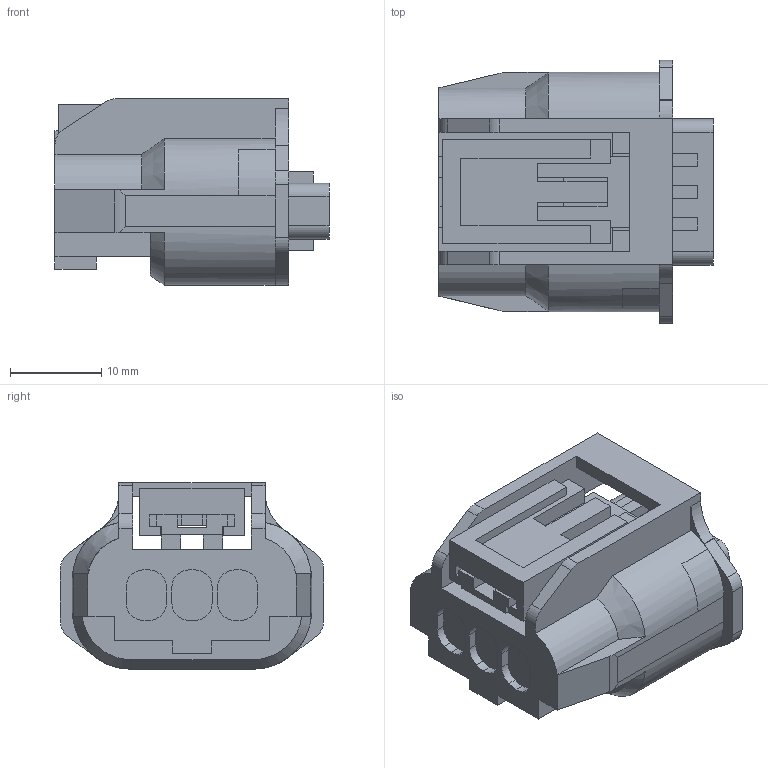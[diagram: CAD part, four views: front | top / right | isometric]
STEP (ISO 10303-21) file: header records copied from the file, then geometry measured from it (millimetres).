
FILE_DESCRIPTION(('CATIA V5 STEP Exchange','CAx-IF Rec.Pracs.--- Model Styling and Organization---1.2---2011-12-15'),'2;1');
FILE_NAME('\\Fss01.ad.sws.co.jp\fs030008\技術管理部\共通\業務\3D設計推進\カタログ用３Ｄ\仮置き\US(Sealed)\6189-7375(CPA open).stp','2016-02-18T02:22:30+00:00',('none'),('none'),'CATIA Version 5-6 Release 2013 SP5 HF43','CATIA V5 STEP AP214','none');
FILE_SCHEMA(('AUTOMOTIVE_DESIGN { 1 0 10303 214 1 1 1 1 }'));
Length unit declared in the file: millimetre
Products named in the file (1): 6189-7375
Bounding box: 30 x 28.8 x 20.4 mm (x, y, z)
Surface area: 6144.9 mm2 (no closed solid volume)
Topology: 0 solids, 1 shells, 255 faces, 782 edges, 529 vertices
Faces by surface type: plane 183, cylinder 66, cone 4, bspline 2
Entity records: 8657 total; most frequent: CARTESIAN_POINT 1703, ORIENTED_EDGE 1562, DIRECTION 1174, EDGE_CURVE 782, VECTOR 605, LINE 605, VERTEX_POINT 529, AXIS2_PLACEMENT_3D 355
